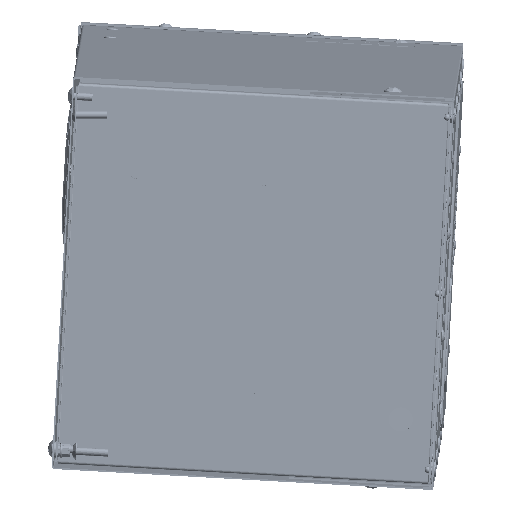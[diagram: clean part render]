
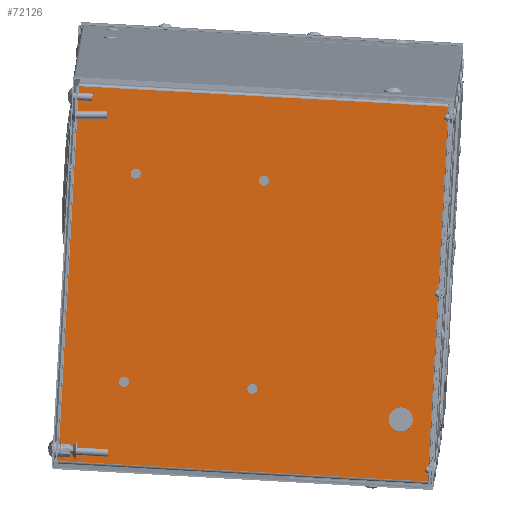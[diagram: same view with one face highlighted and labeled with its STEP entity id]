
A CAD part, front view. The second image highlights one B-rep face of the part: STEP entity #72126.
In plain terms, the highlighted planar face has unit normal (-0.007, -0.999, -0.045) as drawn and (0, 0, -1) by its records, which use the part's own axes.
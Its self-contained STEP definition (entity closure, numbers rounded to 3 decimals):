
#7041 = AXIS2_PLACEMENT_3D ( 'NONE', #260604, #24888, #300181 ) ;
#10023 = VERTEX_POINT ( 'NONE', #162528 ) ;
#11285 = EDGE_CURVE ( 'NONE', #420058, #205567, #279425, .T. ) ;
#16106 = VERTEX_POINT ( 'NONE', #152709 ) ;
#16932 = ORIENTED_EDGE ( 'NONE', *, *, #66400, .F. ) ;
#21081 = DIRECTION ( 'NONE',  ( 0., 0., -1. ) ) ;
#24888 = DIRECTION ( 'NONE',  ( 0., 0., -1. ) ) ;
#26200 = DIRECTION ( 'NONE',  ( -1., 0., 0. ) ) ;
#31764 = DIRECTION ( 'NONE',  ( -1., 0., 0. ) ) ;
#32446 = DIRECTION ( 'NONE',  ( -1., 0., 0. ) ) ;
#32689 = DIRECTION ( 'NONE',  ( 0., 1., 0. ) ) ;
#33462 = LINE ( 'NONE', #250651, #70362 ) ;
#33787 = EDGE_LOOP ( 'NONE', ( #107274, #102356 ) ) ;
#36648 = LINE ( 'NONE', #72129, #430624 ) ;
#38248 = CARTESIAN_POINT ( 'NONE',  ( -146.255, 148.54, -1.422 ) ) ;
#38690 = CARTESIAN_POINT ( 'NONE',  ( -146.255, 148.54, -1.422 ) ) ;
#46606 = EDGE_CURVE ( 'NONE', #105963, #130428, #455223, .T. ) ;
#54353 = CARTESIAN_POINT ( 'NONE',  ( -97.735, -81.95, -1.422 ) ) ;
#59740 = CIRCLE ( 'NONE', #185999, 4. ) ;
#63110 = FACE_OUTER_BOUND ( 'NONE', #139339, .T. ) ;
#66400 = EDGE_CURVE ( 'NONE', #254951, #294160, #250673, .T. ) ;
#70362 = VECTOR ( 'NONE', #290169, 1000. ) ;
#72063 = ORIENTED_EDGE ( 'NONE', *, *, #285836, .F. ) ;
#72126 = ADVANCED_FACE ( 'NONE', ( #75339, #481775, #389518, #272536, #167714, #63110 ), #232999, .T. ) ;
#72129 = CARTESIAN_POINT ( 'NONE',  ( 146.255, -150.75, -1.422 ) ) ;
#75339 = FACE_BOUND ( 'NONE', #314744, .T. ) ;
#76286 = DIRECTION ( 'NONE',  ( -1., 0., 0. ) ) ;
#80799 = DIRECTION ( 'NONE',  ( 0., 0., -1. ) ) ;
#86526 = CARTESIAN_POINT ( 'NONE',  ( -101.735, -81.95, -1.422 ) ) ;
#93917 = DIRECTION ( 'NONE',  ( -1., 0., 0. ) ) ;
#94973 = CARTESIAN_POINT ( 'NONE',  ( -93.735, -81.95, -1.422 ) ) ;
#101876 = CARTESIAN_POINT ( 'NONE',  ( -146.255, -148.54, -1.422 ) ) ;
#102356 = ORIENTED_EDGE ( 'NONE', *, *, #232315, .F. ) ;
#105963 = VERTEX_POINT ( 'NONE', #38248 ) ;
#107274 = ORIENTED_EDGE ( 'NONE', *, *, #388790, .F. ) ;
#113369 = CARTESIAN_POINT ( 'NONE',  ( -0.135, 83.15, -1.422 ) ) ;
#113944 = CARTESIAN_POINT ( 'NONE',  ( 122.265, 100.75, -1.422 ) ) ;
#114375 = CIRCLE ( 'NONE', #131493, 9.525 ) ;
#125958 = CARTESIAN_POINT ( 'NONE',  ( 131.79, 100.75, -1.422 ) ) ;
#130428 = VERTEX_POINT ( 'NONE', #101876 ) ;
#131493 = AXIS2_PLACEMENT_3D ( 'NONE', #385833, #149997, #425396 ) ;
#132642 = ORIENTED_EDGE ( 'NONE', *, *, #412929, .T. ) ;
#139339 = EDGE_LOOP ( 'NONE', ( #337661, #308027, #487054, #132642 ) ) ;
#140270 = EDGE_CURVE ( 'NONE', #294160, #254951, #59740, .T. ) ;
#149997 = DIRECTION ( 'NONE',  ( 0., 0., -1. ) ) ;
#150582 = EDGE_LOOP ( 'NONE', ( #16932, #462851 ) ) ;
#152709 = CARTESIAN_POINT ( 'NONE',  ( -93.735, 83.15, -1.422 ) ) ;
#153521 = DIRECTION ( 'NONE',  ( -1., 0., 0. ) ) ;
#161033 = EDGE_CURVE ( 'NONE', #16106, #374875, #324296, .T. ) ;
#161657 = CARTESIAN_POINT ( 'NONE',  ( 146.255, -148.54, -1.422 ) ) ;
#162528 = CARTESIAN_POINT ( 'NONE',  ( 146.255, 148.54, -1.422 ) ) ;
#167714 = FACE_BOUND ( 'NONE', #247840, .T. ) ;
#185999 = AXIS2_PLACEMENT_3D ( 'NONE', #54353, #329672, #93917 ) ;
#189781 = CARTESIAN_POINT ( 'NONE',  ( 3.865, -81.95, -1.422 ) ) ;
#195712 = CARTESIAN_POINT ( 'NONE',  ( -0.135, -81.95, -1.422 ) ) ;
#203633 = CARTESIAN_POINT ( 'NONE',  ( 7.865, 83.15, -1.422 ) ) ;
#205567 = VERTEX_POINT ( 'NONE', #203633 ) ;
#221100 = VERTEX_POINT ( 'NONE', #195712 ) ;
#221475 = AXIS2_PLACEMENT_3D ( 'NONE', #497521, #261934, #26200 ) ;
#223099 = CARTESIAN_POINT ( 'NONE',  ( 112.74, 100.75, -1.422 ) ) ;
#229408 = DIRECTION ( 'NONE',  ( -1., 0., 0. ) ) ;
#232315 = EDGE_CURVE ( 'NONE', #221100, #483123, #465145, .T. ) ;
#232999 = PLANE ( 'NONE',  #410320 ) ;
#247367 = ORIENTED_EDGE ( 'NONE', *, *, #432046, .F. ) ;
#247840 = EDGE_LOOP ( 'NONE', ( #247367, #388808 ) ) ;
#250651 = CARTESIAN_POINT ( 'NONE',  ( 146.255, -148.54, -1.422 ) ) ;
#250673 = CIRCLE ( 'NONE', #7041, 4. ) ;
#251158 = VERTEX_POINT ( 'NONE', #223099 ) ;
#252000 = ORIENTED_EDGE ( 'NONE', *, *, #414295, .F. ) ;
#254951 = VERTEX_POINT ( 'NONE', #94973 ) ;
#255474 = CIRCLE ( 'NONE', #268093, 4. ) ;
#256812 = CARTESIAN_POINT ( 'NONE',  ( 3.865, 83.15, -1.422 ) ) ;
#260604 = CARTESIAN_POINT ( 'NONE',  ( -97.735, -81.95, -1.422 ) ) ;
#261934 = DIRECTION ( 'NONE',  ( 0., 0., -1. ) ) ;
#267503 = DIRECTION ( 'NONE',  ( 0., 0., -1. ) ) ;
#268093 = AXIS2_PLACEMENT_3D ( 'NONE', #256812, #21081, #296340 ) ;
#268191 = DIRECTION ( 'NONE',  ( 0., 0., -1. ) ) ;
#271891 = EDGE_CURVE ( 'NONE', #334658, #10023, #36648, .T. ) ;
#272536 = FACE_BOUND ( 'NONE', #150582, .T. ) ;
#274468 = DIRECTION ( 'NONE',  ( 1., 0., 0. ) ) ;
#279425 = CIRCLE ( 'NONE', #465848, 4. ) ;
#279477 = AXIS2_PLACEMENT_3D ( 'NONE', #503105, #267503, #31764 ) ;
#284410 = EDGE_CURVE ( 'NONE', #251158, #478306, #323966, .T. ) ;
#285836 = EDGE_CURVE ( 'NONE', #205567, #420058, #255474, .T. ) ;
#290169 = DIRECTION ( 'NONE',  ( -1., 0., 0. ) ) ;
#294160 = VERTEX_POINT ( 'NONE', #86526 ) ;
#296340 = DIRECTION ( 'NONE',  ( -1., 0., 0. ) ) ;
#300181 = DIRECTION ( 'NONE',  ( -1., 0., 0. ) ) ;
#308027 = ORIENTED_EDGE ( 'NONE', *, *, #506146, .T. ) ;
#312118 = DIRECTION ( 'NONE',  ( 0., 0., -1. ) ) ;
#314729 = AXIS2_PLACEMENT_3D ( 'NONE', #503795, #268191, #32446 ) ;
#314744 = EDGE_LOOP ( 'NONE', ( #461526, #252000 ) ) ;
#316605 = CARTESIAN_POINT ( 'NONE',  ( 3.865, 83.15, -1.422 ) ) ;
#323966 = CIRCLE ( 'NONE', #429339, 9.525 ) ;
#324296 = CIRCLE ( 'NONE', #314729, 4. ) ;
#329672 = DIRECTION ( 'NONE',  ( 0., 0., -1. ) ) ;
#334658 = VERTEX_POINT ( 'NONE', #161657 ) ;
#337661 = ORIENTED_EDGE ( 'NONE', *, *, #271891, .F. ) ;
#338748 = CIRCLE ( 'NONE', #279477, 4. ) ;
#342490 = VECTOR ( 'NONE', #274468, 1000. ) ;
#356217 = DIRECTION ( 'NONE',  ( -1., 0., 0. ) ) ;
#374875 = VERTEX_POINT ( 'NONE', #451057 ) ;
#382831 = CARTESIAN_POINT ( 'NONE',  ( 0., 0., -1.422 ) ) ;
#385833 = CARTESIAN_POINT ( 'NONE',  ( 122.265, 100.75, -1.422 ) ) ;
#388790 = EDGE_CURVE ( 'NONE', #483123, #221100, #338748, .T. ) ;
#388808 = ORIENTED_EDGE ( 'NONE', *, *, #284410, .F. ) ;
#389376 = DIRECTION ( 'NONE',  ( 0., 0., -1. ) ) ;
#389518 = FACE_BOUND ( 'NONE', #33787, .T. ) ;
#395280 = AXIS2_PLACEMENT_3D ( 'NONE', #189781, #465090, #229408 ) ;
#403098 = CARTESIAN_POINT ( 'NONE',  ( 7.865, -81.95, -1.422 ) ) ;
#407017 = CARTESIAN_POINT ( 'NONE',  ( -146.255, -150.75, -1.422 ) ) ;
#410320 = AXIS2_PLACEMENT_3D ( 'NONE', #382831, #312118, #76286 ) ;
#410325 = ORIENTED_EDGE ( 'NONE', *, *, #11285, .F. ) ;
#412929 = EDGE_CURVE ( 'NONE', #105963, #10023, #447111, .T. ) ;
#414295 = EDGE_CURVE ( 'NONE', #374875, #16106, #483104, .T. ) ;
#420058 = VERTEX_POINT ( 'NONE', #113369 ) ;
#425396 = DIRECTION ( 'NONE',  ( -1., 0., 0. ) ) ;
#429339 = AXIS2_PLACEMENT_3D ( 'NONE', #113944, #389376, #153521 ) ;
#430381 = EDGE_LOOP ( 'NONE', ( #72063, #410325 ) ) ;
#430624 = VECTOR ( 'NONE', #32689, 1000. ) ;
#432046 = EDGE_CURVE ( 'NONE', #478306, #251158, #114375, .T. ) ;
#442842 = VECTOR ( 'NONE', #486080, 1000. ) ;
#447111 = LINE ( 'NONE', #38690, #342490 ) ;
#451057 = CARTESIAN_POINT ( 'NONE',  ( -101.735, 83.15, -1.422 ) ) ;
#455223 = LINE ( 'NONE', #407017, #442842 ) ;
#461526 = ORIENTED_EDGE ( 'NONE', *, *, #161033, .F. ) ;
#462851 = ORIENTED_EDGE ( 'NONE', *, *, #140270, .F. ) ;
#465090 = DIRECTION ( 'NONE',  ( 0., 0., -1. ) ) ;
#465145 = CIRCLE ( 'NONE', #395280, 4. ) ;
#465848 = AXIS2_PLACEMENT_3D ( 'NONE', #316605, #80799, #356217 ) ;
#478306 = VERTEX_POINT ( 'NONE', #125958 ) ;
#481775 = FACE_BOUND ( 'NONE', #430381, .T. ) ;
#483104 = CIRCLE ( 'NONE', #221475, 4. ) ;
#483123 = VERTEX_POINT ( 'NONE', #403098 ) ;
#486080 = DIRECTION ( 'NONE',  ( 0., -1., 0. ) ) ;
#487054 = ORIENTED_EDGE ( 'NONE', *, *, #46606, .F. ) ;
#497521 = CARTESIAN_POINT ( 'NONE',  ( -97.735, 83.15, -1.422 ) ) ;
#503105 = CARTESIAN_POINT ( 'NONE',  ( 3.865, -81.95, -1.422 ) ) ;
#503795 = CARTESIAN_POINT ( 'NONE',  ( -97.735, 83.15, -1.422 ) ) ;
#506146 = EDGE_CURVE ( 'NONE', #334658, #130428, #33462, .T. ) ;
